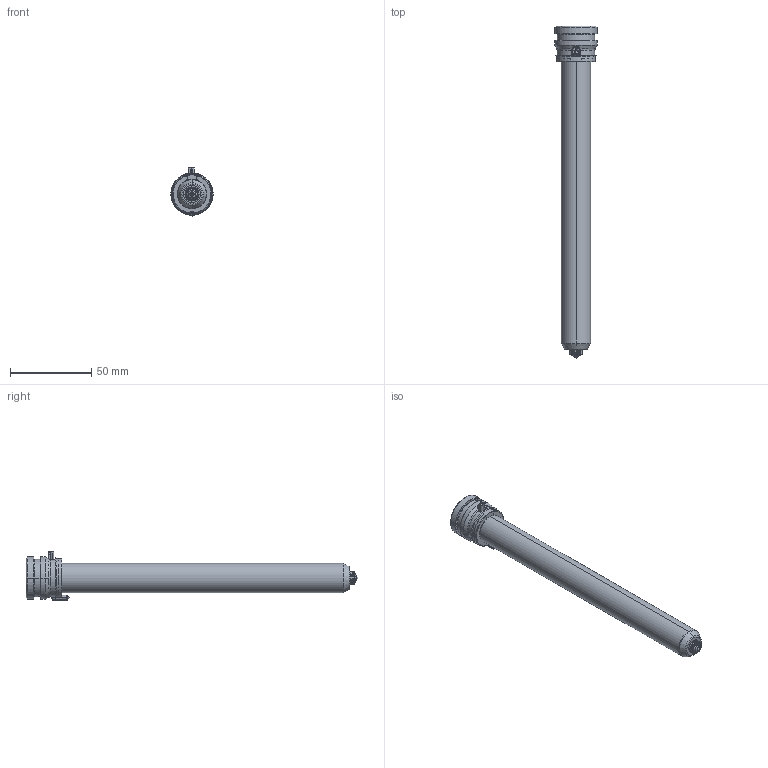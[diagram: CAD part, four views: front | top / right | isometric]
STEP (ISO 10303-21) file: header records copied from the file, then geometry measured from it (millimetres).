
FILE_DESCRIPTION((''),'2;1');
FILE_NAME('TH18186-A-1-PK-JG','2023-12-14T',('umhib'),('Thermoplay S.p.A.'),'PRO/ENGINEER BY PARAMETRIC TECHNOLOGY CORPORATION, 2017170','PRO/ENGINEER BY PARAMETRIC TECHNOLOGY CORPORATION, 2017170','');
FILE_SCHEMA(('CONFIG_CONTROL_DESIGN'));
Length unit declared in the file: millimetre
Products named in the file (1): TH18186-A-1-PK-JG
Bounding box: 26 x 204 x 29.5 mm (x, y, z)
Volume: 40330.5 mm3; surface area: 29286.5 mm2
Topology: 1 solids, 2 shells, 396 faces, 1032 edges, 641 vertices
Faces by surface type: cylinder 151, plane 85, cone 66, torus 56, bspline 24, sphere 12, extrusion 2
Entity records: 18016 total; most frequent: CARTESIAN_POINT 6110, ORIENTED_EDGE 2040, DIRECTION 2019, EDGE_CURVE 1022, AXIS2_PLACEMENT_3D 810, VERTEX_POINT 641, CIRCLE 439, EDGE_LOOP 416
